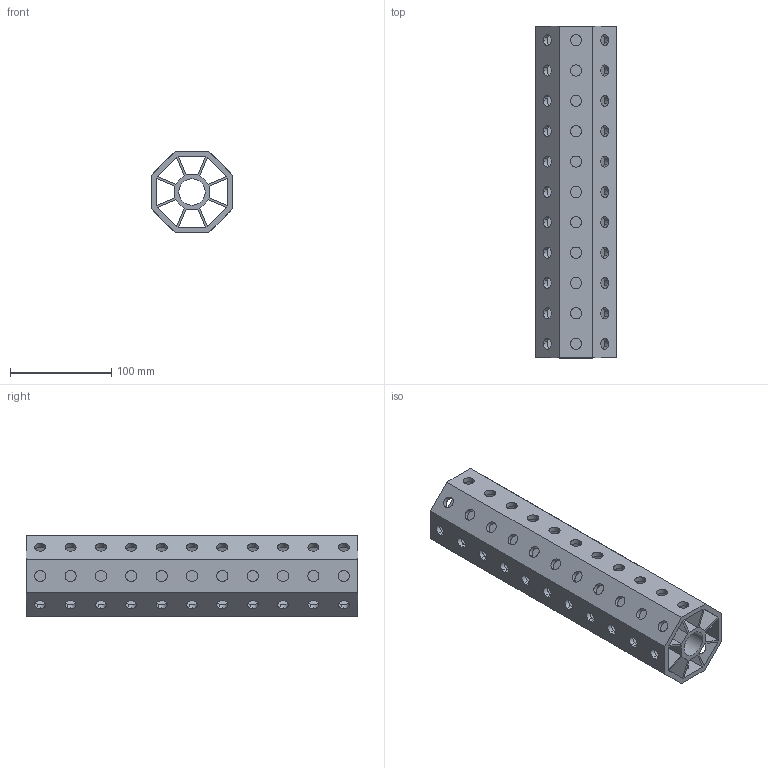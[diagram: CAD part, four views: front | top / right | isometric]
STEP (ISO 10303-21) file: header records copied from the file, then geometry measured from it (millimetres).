
FILE_DESCRIPTION(('STEP AP214'),'1');
FILE_NAME('EGT001_xxxixxx_8KT_PROFIL_SW80.CATPart.stp','2015-09-14T13:03:30',('3D-Tool'),(' '),'Spatial InterOp 3D',' ',' ');
FILE_SCHEMA(('automotive_design'));
Length unit declared in the file: millimetre
Products named in the file (1): EGT001_xxxixxx_8KT_PROFIL_SW80|EGT001_8KT_PROFIL_SW80|Bohrbearbeitung
Bounding box: 80 x 328 x 80 mm (x, y, z)
Volume: 604435.8 mm3; surface area: 320486.5 mm2
Topology: 1 solids, 1 shells, 396 faces, 1182 edges, 788 vertices
Faces by surface type: cylinder 354, plane 42
Entity records: 17315 total; most frequent: DIRECTION 2684, CARTESIAN_POINT 2367, ORIENTED_EDGE 2364, EDGE_CURVE 1182, AXIS2_PLACEMENT_3D 1105, VERTEX_POINT 788, CIRCLE 708, EDGE_LOOP 590
